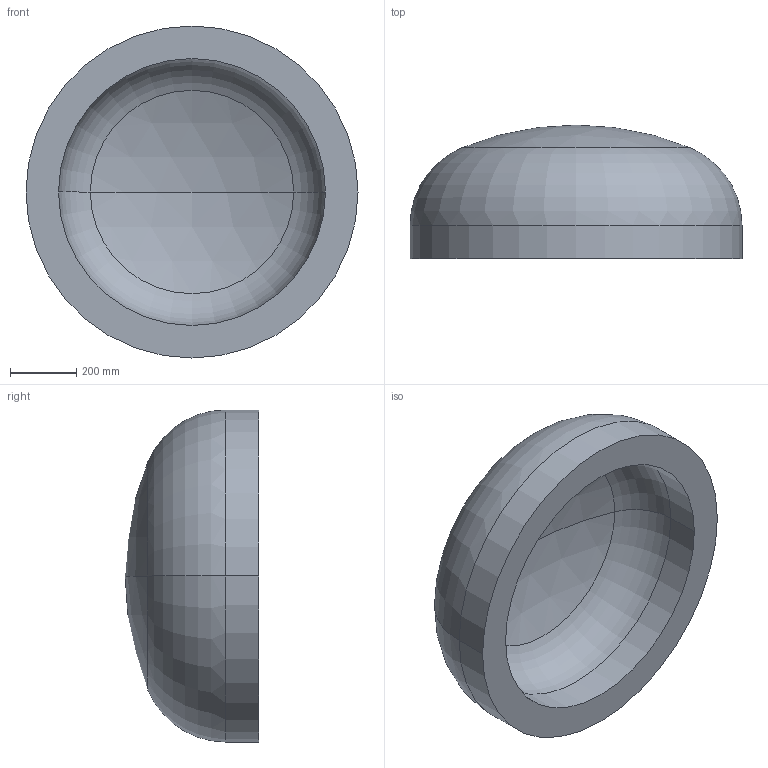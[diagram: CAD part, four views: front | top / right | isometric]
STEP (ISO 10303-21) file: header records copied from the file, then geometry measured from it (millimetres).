
FILE_DESCRIPTION (( 'STEP AP203' ), '1' );
FILE_NAME ('DIN 28013 Korbbogenform_-_Boden DIN 28013 - 1000 x 100 - I - s=98.step', '2016-07-01T08:56:26', ( '' ), ( '' ), 'SwSTEP 2.0', 'SolidWorks 2013', '' );
FILE_SCHEMA (( 'CONFIG_CONTROL_DESIGN' ));
Length unit declared in the file: millimetre
Products named in the file (1): DIN 28013 Korbbogenform_-_Boden DIN 28013 - 1000 x 100 - I - s=98
Bounding box: 1000 x 402.17 x 1000 mm (x, y, z)
Volume: 122311568.7 mm3; surface area: 2793972.9 mm2
Topology: 1 solids, 1 shells, 13 faces, 24 edges, 14 vertices
Faces by surface type: torus 4, cylinder 4, sphere 4, plane 1
Entity records: 407 total; most frequent: DIRECTION 72, CARTESIAN_POINT 52, ORIENTED_EDGE 48, AXIS2_PLACEMENT_3D 34, EDGE_CURVE 24, CIRCLE 20, VERTEX_POINT 14, EDGE_LOOP 14
